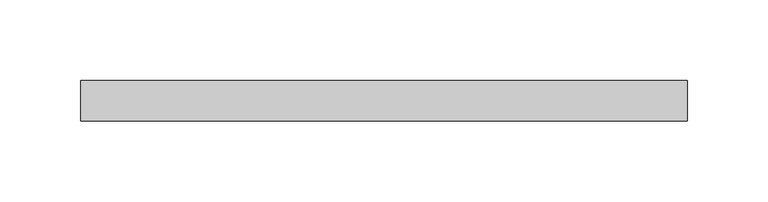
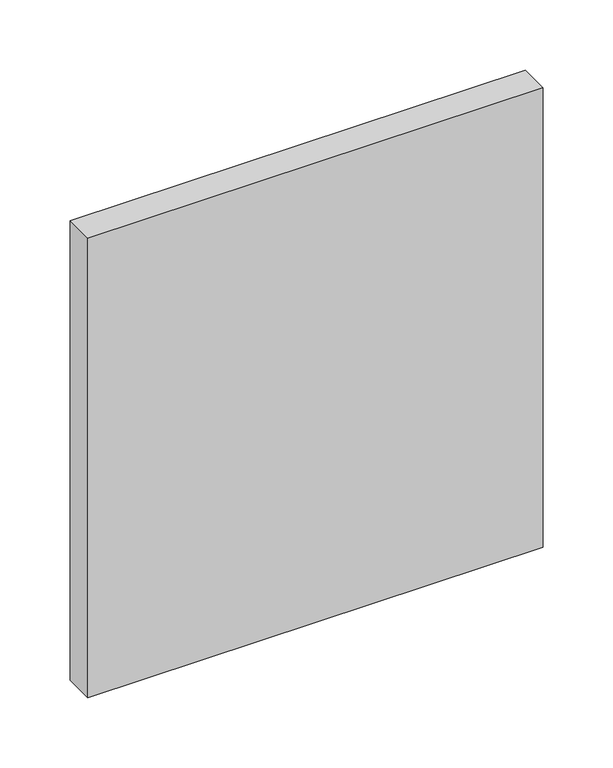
"""IFC4 building model written with IfcOpenShell, lengths in millimetres: plate geometry, Системная панель : С остеклением."""

from ifc_helpers import new_model, si_unit, origin, origin_with_axes, place, context, project, spatial, polyline, outline, extrude, source, transform, mapped, element, save


def plate_3452f925(model_context):
    return source(origin(), model_context, "Body", "SweptSolid", [
        extrude(outline(polyline([(187.5, -49.5), (-187.5, -49.5), (-187.5, -24.5), (187.5, -24.5), (187.5, -49.5)])), origin_with_axes(), (0.0, 0.0, 1.0), 400.0),
    ])


if __name__ == "__main__":
    model = new_model("IFC4")
    model_context = context("Model", 3, world=origin())
    ifc_project = project(units=[si_unit("LENGTHUNIT", "METRE", prefix="MILLI")], contexts=[model_context])
    site = spatial("IfcSite", under=ifc_project)
    building = spatial("IfcBuilding", under=site)
    placement = place(None, origin())
    plate_shape = plate_3452f925(model_context)
    element("IfcPlate", 1, ObjectType="Системная панель : С остеклением", at=placement, inside=building, context=model_context, shape_type="MappedRepresentation", body=[
        mapped(plate_shape, transform((0.0, 0.0, 0.0), x_axis=(1.0, 0.0, 0.0), y_axis=(0.0, 1.0, 0.0), z_axis=(0.0, 0.0, 1.0))),
    ])
    save(model, "model.ifc")
